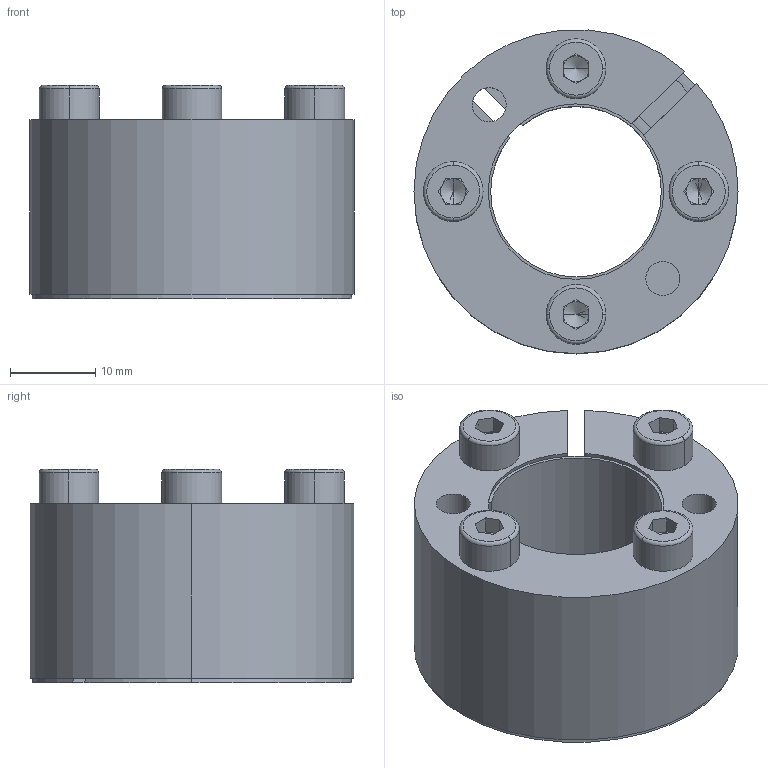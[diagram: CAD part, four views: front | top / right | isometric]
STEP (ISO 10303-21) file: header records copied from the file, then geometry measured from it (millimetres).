
FILE_DESCRIPTION (( 'STEP AP214' ), '1' );
FILE_NAME ('CONEX-K-20x38.step', '2013-04-06T13:20:47', ( 'Pc' ), ( '' ), 'SwSTEP 2.0', 'SolidWorks 2013', '' );
FILE_SCHEMA (( 'AUTOMOTIVE_DESIGN' ));
Length unit declared in the file: millimetre
Products named in the file (1): CONEX-K-20x38
Bounding box: 38 x 37.95 x 24.99 mm (x, y, z)
Volume: 12964.2 mm3; surface area: 12653.8 mm2
Topology: 6 solids, 6 shells, 162 faces, 378 edges, 228 vertices
Faces by surface type: plane 70, cylinder 48, cone 28, torus 16
Entity records: 6473 total; most frequent: DIRECTION 866, CARTESIAN_POINT 785, ORIENTED_EDGE 740, EDGE_CURVE 370, AXIS2_PLACEMENT_3D 341, VERTEX_POINT 228, EDGE_LOOP 190, VECTOR 184
